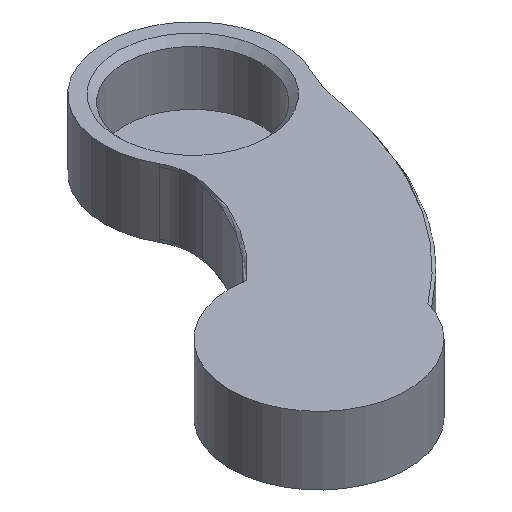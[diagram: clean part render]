
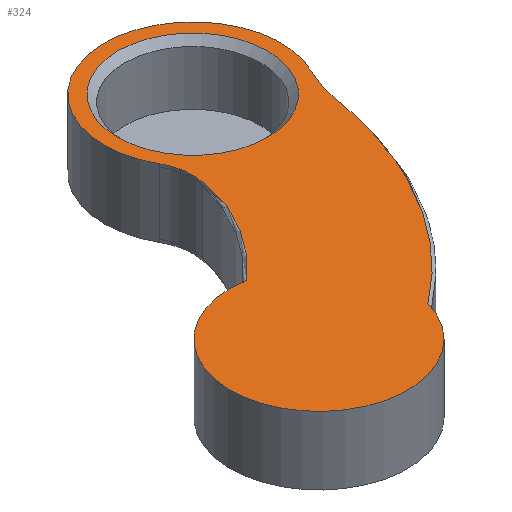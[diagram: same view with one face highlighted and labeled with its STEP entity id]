
A CAD part, isometric view. The second image highlights one B-rep face of the part: STEP entity #324.
In plain terms, the highlighted planar face has unit normal (0, 0, 1) as drawn and (0, -1, 0) by its records, which use the part's own axes.
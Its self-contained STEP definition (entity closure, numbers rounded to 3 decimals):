
#22=FACE_BOUND('',#88,.T.);
#44=B_SPLINE_CURVE_WITH_KNOTS('',3,(#602,#603,#604,#605,#606,#607,#608,
#609,#610,#611,#612,#613,#614,#615,#616,#617),.UNSPECIFIED.,.F.,.F.,(4,
2,2,2,2,2,2,4),(-0.001,0.,0.064,0.135,
0.165,0.183,0.244,0.313),
 .UNSPECIFIED.);
#45=B_SPLINE_CURVE_WITH_KNOTS('',3,(#618,#619,#620,#621,#622,#623,#624,
#625,#626,#627,#628,#629,#630,#631,#632,#633,#634,#635,#636,#637),
 .UNSPECIFIED.,.F.,.F.,(4,2,2,2,2,2,2,2,2,4),(0.,0.124,0.283,
0.365,0.431,0.619,0.883,
1.5,2.101,2.104),.UNSPECIFIED.);
#55=PLANE('',#372);
#66=FACE_OUTER_BOUND('',#87,.T.);
#87=EDGE_LOOP('',(#249,#250,#251,#252,#253,#254));
#88=EDGE_LOOP('',(#255));
#123=CIRCLE('',#358,6.5);
#126=CIRCLE('',#363,14.95);
#128=CIRCLE('',#366,24.55);
#129=CIRCLE('',#368,5.5);
#132=CIRCLE('',#373,6.5);
#148=VERTEX_POINT('',#523);
#149=VERTEX_POINT('',#536);
#153=VERTEX_POINT('',#559);
#155=VERTEX_POINT('',#576);
#156=VERTEX_POINT('',#589);
#159=VERTEX_POINT('',#599);
#160=VERTEX_POINT('',#600);
#178=EDGE_CURVE('',#149,#148,#123,.T.);
#184=EDGE_CURVE('',#153,#149,#126,.T.);
#188=EDGE_CURVE('',#148,#155,#128,.T.);
#189=EDGE_CURVE('',#156,#156,#129,.T.);
#194=EDGE_CURVE('',#159,#160,#132,.T.);
#195=EDGE_CURVE('',#153,#160,#44,.T.);
#196=EDGE_CURVE('',#159,#155,#45,.T.);
#249=ORIENTED_EDGE('',*,*,#194,.T.);
#250=ORIENTED_EDGE('',*,*,#195,.F.);
#251=ORIENTED_EDGE('',*,*,#184,.T.);
#252=ORIENTED_EDGE('',*,*,#178,.T.);
#253=ORIENTED_EDGE('',*,*,#188,.T.);
#254=ORIENTED_EDGE('',*,*,#196,.F.);
#255=ORIENTED_EDGE('',*,*,#189,.F.);
#324=ADVANCED_FACE('',(#66,#22),#55,.F.);
#358=AXIS2_PLACEMENT_3D('',#537,#409,#410);
#363=AXIS2_PLACEMENT_3D('',#560,#421,#422);
#366=AXIS2_PLACEMENT_3D('',#587,#427,#428);
#368=AXIS2_PLACEMENT_3D('',#590,#431,#432);
#372=AXIS2_PLACEMENT_3D('',#598,#441,#442);
#373=AXIS2_PLACEMENT_3D('',#601,#443,#444);
#409=DIRECTION('center_axis',(0.,-1.,0.));
#410=DIRECTION('ref_axis',(0.476,0.,-0.879));
#421=DIRECTION('center_axis',(0.,1.,0.));
#422=DIRECTION('ref_axis',(0.,0.,-1.));
#427=DIRECTION('center_axis',(0.,-1.,0.));
#428=DIRECTION('ref_axis',(0.,0.,-1.));
#431=DIRECTION('center_axis',(0.,-1.,0.));
#432=DIRECTION('ref_axis',(-0.476,0.,0.879));
#441=DIRECTION('center_axis',(0.,1.,0.));
#442=DIRECTION('ref_axis',(0.,0.,1.));
#443=DIRECTION('center_axis',(0.,-1.,0.));
#444=DIRECTION('ref_axis',(-0.476,0.,0.879));
#523=CARTESIAN_POINT('',(-10.059,0.,-6.338));
#536=CARTESIAN_POINT('',(-5.347,0.,2.095));
#537=CARTESIAN_POINT('Origin',(-11.5,0.,0.));
#559=CARTESIAN_POINT('',(1.316,0.,1.165));
#560=CARTESIAN_POINT('Origin',(0.,0.,16.057));
#576=CARTESIAN_POINT('',(-2.116,0.,-8.402));
#587=CARTESIAN_POINT('Origin',(0.,0.,16.057));
#589=CARTESIAN_POINT('',(14.119,0.,-4.836));
#590=CARTESIAN_POINT('Origin',(11.5,0.,0.));
#598=CARTESIAN_POINT('Origin',(5.75,0.,8.028));
#599=CARTESIAN_POINT('',(11.737,0.,-6.496));
#600=CARTESIAN_POINT('',(5.98,0.,3.432));
#601=CARTESIAN_POINT('Origin',(11.5,0.,0.));
#602=CARTESIAN_POINT('Ctrl Pts',(1.316,0.,1.165));
#603=CARTESIAN_POINT('Ctrl Pts',(1.319,0.,
1.165));
#604=CARTESIAN_POINT('Ctrl Pts',(1.323,0.,
1.166));
#605=CARTESIAN_POINT('Ctrl Pts',(1.535,0.,
1.206));
#606=CARTESIAN_POINT('Ctrl Pts',(1.834,0.,
1.257));
#607=CARTESIAN_POINT('Ctrl Pts',(2.563,0.,
1.404));
#608=CARTESIAN_POINT('Ctrl Pts',(2.937,0.,
1.493));
#609=CARTESIAN_POINT('Ctrl Pts',(3.458,0.,
1.644));
#610=CARTESIAN_POINT('Ctrl Pts',(3.615,0.,
1.694));
#611=CARTESIAN_POINT('Ctrl Pts',(3.858,0.,
1.779));
#612=CARTESIAN_POINT('Ctrl Pts',(3.949,0.,
1.813));
#613=CARTESIAN_POINT('Ctrl Pts',(4.34,0.,
1.97));
#614=CARTESIAN_POINT('Ctrl Pts',(4.675,0.,
2.134));
#615=CARTESIAN_POINT('Ctrl Pts',(5.399,0.,
2.67));
#616=CARTESIAN_POINT('Ctrl Pts',(5.726,0.,
3.024));
#617=CARTESIAN_POINT('Ctrl Pts',(5.98,0.,
3.432));
#618=CARTESIAN_POINT('Ctrl Pts',(11.737,0.,-6.496));
#619=CARTESIAN_POINT('Ctrl Pts',(11.324,0.,
-6.511));
#620=CARTESIAN_POINT('Ctrl Pts',(10.914,0.,
-6.552));
#621=CARTESIAN_POINT('Ctrl Pts',(9.983,0.,
-6.708));
#622=CARTESIAN_POINT('Ctrl Pts',(9.557,0.,
-6.823));
#623=CARTESIAN_POINT('Ctrl Pts',(9.073,0.,
-6.968));
#624=CARTESIAN_POINT('Ctrl Pts',(8.905,0.,
-7.021));
#625=CARTESIAN_POINT('Ctrl Pts',(8.623,0.,
-7.112));
#626=CARTESIAN_POINT('Ctrl Pts',(8.484,0.,
-7.157));
#627=CARTESIAN_POINT('Ctrl Pts',(7.929,0.,
-7.335));
#628=CARTESIAN_POINT('Ctrl Pts',(7.591,0.,
-7.439));
#629=CARTESIAN_POINT('Ctrl Pts',(6.666,0.,
-7.701));
#630=CARTESIAN_POINT('Ctrl Pts',(6.129,0.,-7.835));
#631=CARTESIAN_POINT('Ctrl Pts',(4.303,0.,-8.231));
#632=CARTESIAN_POINT('Ctrl Pts',(3.013,0.,
-8.408));
#633=CARTESIAN_POINT('Ctrl Pts',(0.441,0.,
-8.555));
#634=CARTESIAN_POINT('Ctrl Pts',(-0.832,0.,-8.53));
#635=CARTESIAN_POINT('Ctrl Pts',(-2.103,0.,-8.403));
#636=CARTESIAN_POINT('Ctrl Pts',(-2.11,0.,
-8.403));
#637=CARTESIAN_POINT('Ctrl Pts',(-2.116,0.,-8.402));
